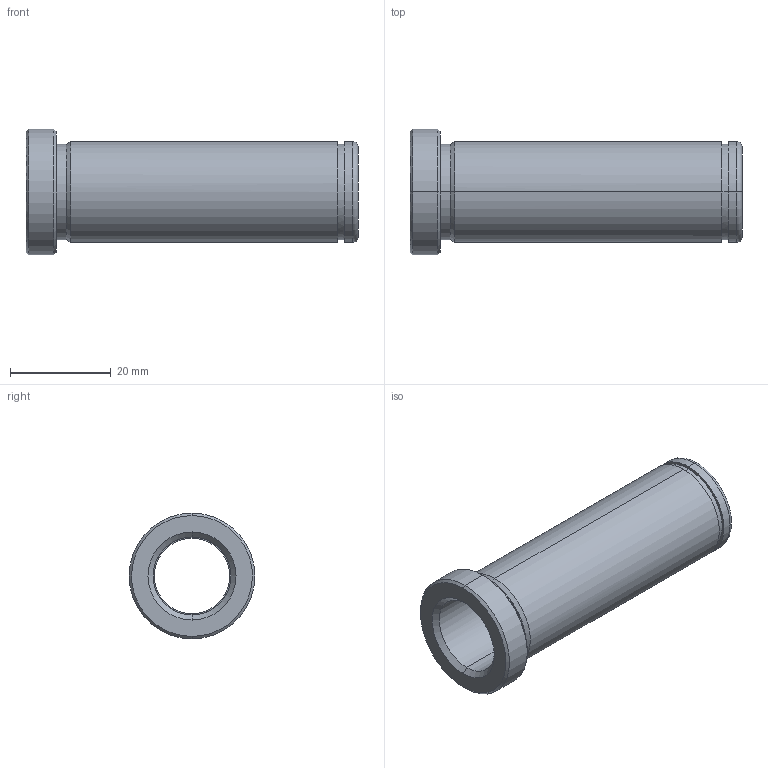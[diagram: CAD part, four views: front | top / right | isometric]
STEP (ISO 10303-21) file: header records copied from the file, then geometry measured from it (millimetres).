
FILE_DESCRIPTION(('CATIA V5 STEP Exchange'),'2;1');
FILE_NAME('C:\Users\Utente\Desktop\IO LAVORO\3D X SITO CF\X SITO\PLASTICA\553\553-15X66.stp','2021-05-21T18:35:34+00:00',('none'),('none'),'CATIA Version 5 Release 20 GA (IN-10)','CATIA V5 STEP AP203','none');
FILE_SCHEMA(('CONFIG_CONTROL_DESIGN'));
Length unit declared in the file: millimetre
Products named in the file (1): 553-15X66
Bounding box: 66 x 25 x 25 mm (x, y, z)
Volume: 9695.9 mm3; surface area: 7968.8 mm2
Topology: 1 solids, 1 shells, 31 faces, 98 edges, 72 vertices
Faces by surface type: cylinder 14, cone 8, plane 5, torus 4
Entity records: 1288 total; most frequent: CARTESIAN_POINT 384, ORIENTED_EDGE 196, DIRECTION 144, EDGE_CURVE 98, AXIS2_PLACEMENT_3D 92, VERTEX_POINT 72, CIRCLE 60, EDGE_LOOP 36
